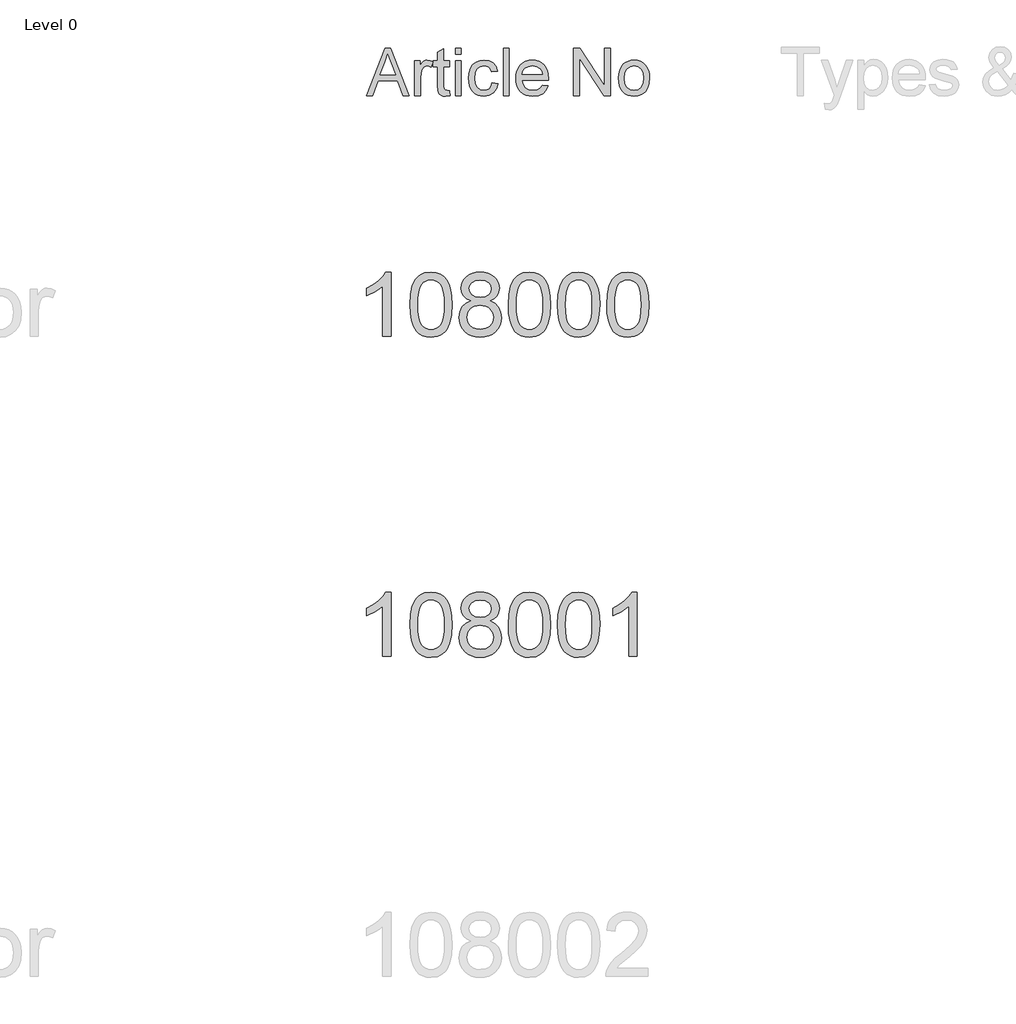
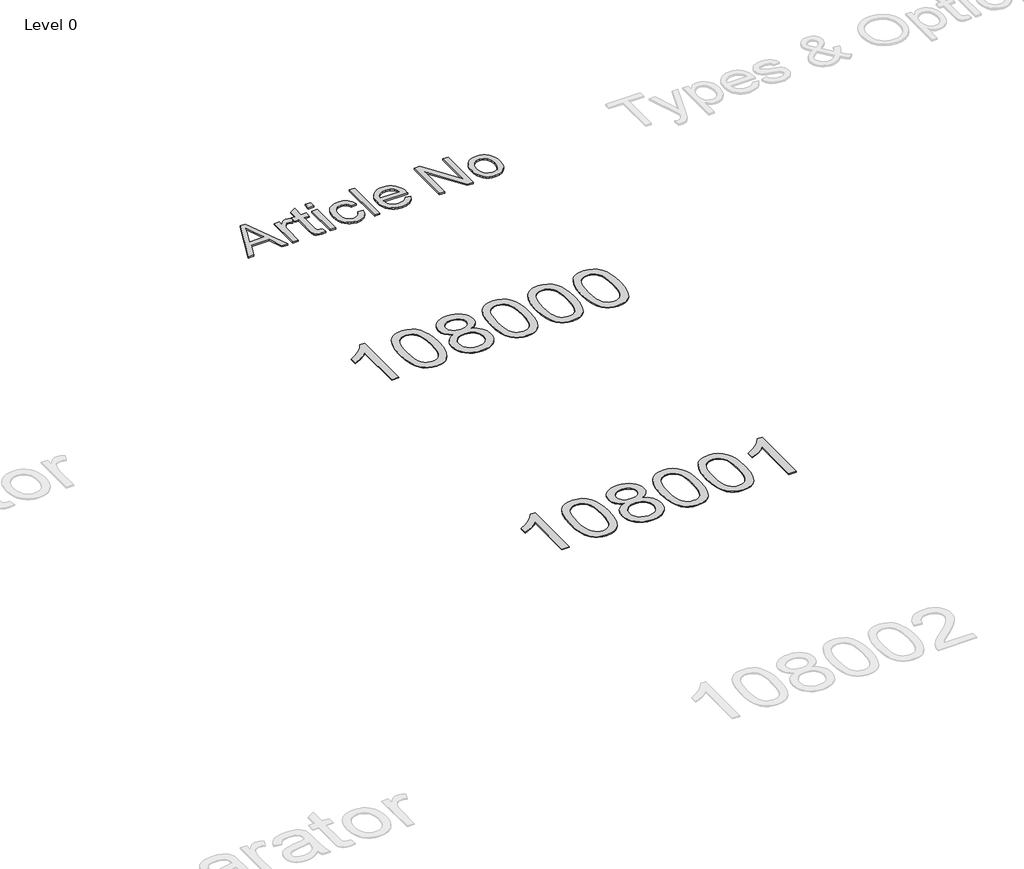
# One storey, part 7 of 15: 3 proxies.
"""IFC4 building model written with IfcOpenShell, lengths in millimetres."""

from ifc_helpers import new_model, si_unit, origin, origin_with_axes, place, context, project, spatial, polyline, outline, extrude, element, save

model = new_model("IFC4")

# Units and contexts
model_context = context("Model", 3, world=origin())
ifc_project = project(units=[si_unit("LENGTHUNIT", "METRE", prefix="MILLI")], contexts=[model_context])

# Site, building, storey
site = spatial("IfcSite", under=ifc_project)
building = spatial("IfcBuilding", under=site)
storey = spatial("IfcBuildingStorey", under=building, Name="Level 0", Elevation=0.0)

# Proxies
placement = place(None, origin())
element("IfcBuildingElementProxy", 1, Name="300mm Arial", ObjectType="300mm Arial", at=placement, inside=storey, context=model_context, shape_type="SweptSolid", body=[
    extrude(outline(polyline([(-3782.2115467, 11653.8274553), (-3664.3028928, 11949.2120707), (-3632.8605852, 11949.2120707), (-3514.9519313, 11653.8274553), (-3553.9663544, 11653.8274553), (-3587.7884698, 11746.1351476), (-3709.4471236, 11746.1351476), (-3743.1971236, 11653.8274553), (-3782.2115467, 11653.8274553)]), holes=[polyline([(-3695.8894313, 11783.0582246), (-3601.2740467, 11783.0582246), (-3627.8846236, 11855.6784169), (-3648.581739, 11912.2889938), (-3666.9711621, 11862.0245707), (-3695.8894313, 11783.0582246)])]), origin_with_axes(), (0.0, 0.0, 1.0), 10.0),
    extrude(outline(polyline([(-3480.1202005, 11653.8274553), (-3480.1202005, 11870.7505323), (-3447.8125082, 11870.7505323), (-3447.8125082, 11838.6591861), (-3435.8774121, 11857.2649553), (-3424.8798159, 11868.2264938), (-3413.8461621, 11873.5810611), (-3401.8028928, 11875.3659169), (-3383.4134698, 11872.5173592), (-3364.7355852, 11863.9716861), (-3377.0673159, 11830.8707246), (-3390.0480852, 11836.5498111), (-3403.0288544, 11838.44284), (-3414.0534938, 11836.6219265), (-3423.9062582, 11831.1591861), (-3431.8659938, 11822.4692823), (-3437.2115467, 11810.9668784), (-3441.7007294, 11790.3418784), (-3443.1971236, 11767.8418784), (-3443.1971236, 11653.8274553), (-3480.1202005, 11653.8274553)])), origin_with_axes(), (0.0, 0.0, 1.0), 10.0),
    extrude(outline(polyline([(-3263.1971236, 11684.6207246), (-3258.581739, 11652.7457246), (-3286.2019313, 11649.2120707), (-3303.9242871, 11650.7445226), (-3317.1394313, 11655.3418784), (-3326.4783736, 11662.427215), (-3332.5721236, 11671.4236092), (-3335.925489, 11686.8743303), (-3337.0432775, 11713.3226476), (-3337.0432775, 11833.8274553), (-3364.7355852, 11833.8274553), (-3364.7355852, 11870.7505323), (-3337.0432775, 11870.7505323), (-3337.0432775, 11923.4668784), (-3300.1202005, 11945.1736092), (-3300.1202005, 11870.7505323), (-3263.1971236, 11870.7505323), (-3263.1971236, 11833.8274553), (-3300.1202005, 11833.8274553), (-3300.1202005, 11714.4043784), (-3298.1730852, 11695.3659169), (-3291.862989, 11688.6231284), (-3279.2788544, 11686.1351476), (-3263.1971236, 11684.6207246)])), origin_with_axes(), (0.0, 0.0, 1.0), 10.0),
    extrude(outline(polyline([(-3226.2740467, 11912.2889938), (-3226.2740467, 11949.2120707), (-3189.3509698, 11949.2120707), (-3189.3509698, 11912.2889938), (-3226.2740467, 11912.2889938)])), origin_with_axes(), (0.0, 0.0, 1.0), 10.0),
    extrude(outline(polyline([(-3226.2740467, 11653.8274553), (-3226.2740467, 11870.7505323), (-3189.3509698, 11870.7505323), (-3189.3509698, 11653.8274553), (-3226.2740467, 11653.8274553)])), origin_with_axes(), (0.0, 0.0, 1.0), 10.0),
    extrude(outline(polyline([(-2995.5048159, 11732.2889938), (-2958.581739, 11727.6736092), (-2968.8762102, 11694.8340659), (-2988.2211621, 11670.0173592), (-3014.7956813, 11654.4133928), (-3046.7788544, 11649.2120707), (-3067.4872378, 11651.0262234), (-3086.0546957, 11656.4686813), (-3102.4812282, 11665.5394445), (-3116.7668352, 11678.238513), (-3128.3300864, 11694.3270046), (-3136.5895515, 11713.5660371), (-3141.5452306, 11735.9556104), (-3143.1971236, 11761.4957246), (-3140.3756092, 11794.3532967), (-3131.9110659, 11822.8298592), (-3117.6682775, 11845.8256525), (-3097.5120275, 11862.2409169), (-3073.3984457, 11872.0846669), (-3047.2836621, 11875.3659169), (-3016.0847438, 11870.8587053), (-2991.1418352, 11857.3370707), (-2973.2482053, 11835.5221669), (-2963.1971236, 11806.1351476), (-3000.1202005, 11801.519763), (-3006.8179169, 11817.6285371), (-3017.2476044, 11829.176013), (-3030.83234, 11836.1261332), (-3046.9952005, 11838.44284), (-3070.8563784, 11833.8815419), (-3089.7956813, 11820.1976476), (-3102.1544553, 11796.6519746), (-3106.2740467, 11762.50534), (-3102.2445996, 11727.8989698), (-3090.1562582, 11704.2721669), (-3071.5595034, 11690.6694025), (-3048.0048159, 11686.1351476), (-3028.8852246, 11688.9656765), (-3013.2091428, 11697.457263), (-3001.8058977, 11711.8262534), (-2995.5048159, 11732.2889938)])), origin_with_axes(), (0.0, 0.0, 1.0), 10.0),
    extrude(outline(polyline([(-2926.2740467, 11653.8274553), (-2926.2740467, 11949.2120707), (-2889.3509698, 11949.2120707), (-2889.3509698, 11653.8274553), (-2926.2740467, 11653.8274553)])), origin_with_axes(), (0.0, 0.0, 1.0), 10.0),
    extrude(outline(polyline([(-2682.0913544, 11718.44284), (-2645.8894313, 11713.8274553), (-2658.9333015, 11686.5498111), (-2679.7476044, 11666.1591861), (-2707.86359, 11653.4488496), (-2742.8125082, 11649.2120707), (-2765.7226645, 11651.039745), (-2786.1358255, 11656.5227678), (-2804.0519914, 11665.6611392), (-2819.4711621, 11678.4548592), (-2831.870501, 11694.547858), (-2840.7271717, 11713.5840659), (-2846.0411741, 11735.563483), (-2847.8125082, 11760.4861092), (-2846.0231453, 11786.2538375), (-2840.6550563, 11808.9656765), (-2831.7082414, 11828.621626), (-2819.1827005, 11845.2216861), (-2803.8040948, 11858.4097871), (-2786.2980852, 11867.8298592), (-2766.6646717, 11873.4819025), (-2744.9038544, 11875.3659169), (-2723.8439085, 11873.4864097), (-2704.7986861, 11867.847888), (-2687.7681873, 11858.450352), (-2672.7524121, 11845.2938015), (-2660.4950503, 11828.7297991), (-2651.7397919, 11809.1099073), (-2646.4866368, 11786.434126), (-2644.7355852, 11760.7024553), (-2644.9519313, 11750.7505323), (-2810.8894313, 11750.7505323), (-2804.4982053, 11723.1123111), (-2789.6514505, 11702.7938015), (-2768.2241669, 11690.2998111), (-2742.0913544, 11686.1351476), (-2722.4399121, 11688.0642342), (-2705.8894313, 11693.8514938), (-2692.4399121, 11703.8575034), (-2682.0913544, 11718.44284)]), holes=[polyline([(-2810.8894313, 11787.6736092), (-2681.6586621, 11787.6736092), (-2686.6526525, 11807.1808207), (-2696.4423159, 11821.1351476), (-2717.9687582, 11834.1159169), (-2745.0480852, 11838.44284), (-2769.9369073, 11834.9903159), (-2790.5168352, 11824.6327438), (-2804.8227246, 11808.4879121), (-2810.8894313, 11787.6736092)])]), origin_with_axes(), (0.0, 0.0, 1.0), 10.0),
    extrude(outline(polyline([(-2487.8125082, 11653.8274553), (-2487.8125082, 11949.2120707), (-2448.2932775, 11949.2120707), (-2293.9663544, 11715.1976476), (-2293.9663544, 11949.2120707), (-2257.0432775, 11949.2120707), (-2257.0432775, 11653.8274553), (-2296.5625082, 11653.8274553), (-2450.8894313, 11887.9139938), (-2450.8894313, 11653.8274553), (-2487.8125082, 11653.8274553)])), origin_with_axes(), (0.0, 0.0, 1.0), 10.0),
    extrude(outline(polyline([(-2206.2740467, 11762.2889938), (-2204.277352, 11790.3824433), (-2198.2872678, 11814.5906765), (-2188.3037943, 11834.9136933), (-2174.3269313, 11851.3514938), (-2160.2554169, 11861.8578039), (-2144.7235659, 11869.3623111), (-2127.7313784, 11873.8650154), (-2109.2788544, 11875.3659169), (-2088.9085118, 11873.5382426), (-2070.4897919, 11868.0552198), (-2054.0226945, 11858.9168484), (-2039.5072198, 11846.1231284), (-2027.6600142, 11830.1067522), (-2019.1977246, 11811.3004121), (-2014.1203508, 11789.704108), (-2012.4278928, 11765.31784), (-2015.4206813, 11728.0161573), (-2024.3990467, 11699.6207246), (-2039.1015707, 11678.3557005), (-2059.2668352, 11662.4452438), (-2083.2181573, 11652.520364), (-2109.2788544, 11649.2120707), (-2129.9466729, 11651.0329842), (-2148.5366669, 11656.4957246), (-2165.0488364, 11665.6002919), (-2179.4831813, 11678.3466861), (-2191.2041849, 11694.5185611), (-2199.5763303, 11713.8995707), (-2204.5996176, 11736.489715), (-2206.2740467, 11762.2889938)]), holes=[polyline([(-2169.3509698, 11762.3611092), (-2165.0781332, 11728.9446428), (-2152.2596236, 11705.1375515), (-2132.9687582, 11690.8857486), (-2109.2788544, 11686.1351476), (-2085.6971236, 11690.9127919), (-2066.4423159, 11705.2457246), (-2053.6238063, 11729.3683207), (-2049.3509698, 11763.5149553), (-2053.6508496, 11795.957864), (-2066.550489, 11819.4404361), (-2085.83234, 11833.692239), (-2109.2788544, 11838.44284), (-2132.9687582, 11833.7102678), (-2152.2596236, 11819.5125515), (-2165.0781332, 11795.7595467), (-2169.3509698, 11762.3611092)])]), origin_with_axes(), (0.0, 0.0, 1.0), 10.0),
])
element("IfcBuildingElementProxy", 2, Name="400mm Arial", ObjectType="400mm Arial", at=placement, inside=storey, context=model_context, shape_type="SweptSolid", body=[
    extrude(outline(polyline([(-3629.592891, 10149.0232018), (-3679.821046, 10149.0232018), (-3679.821046, 10462.1643561), (-3700.7903198, 10445.2049961), (-3727.4004508, 10428.2701616), (-3780.2773562, 10402.9108294), (-3780.2773562, 10450.3921323), (-3740.8281436, 10471.8519153), (-3706.6519062, 10497.3829258), (-3679.7106814, 10524.532617), (-3661.9665065, 10550.8484424), (-3629.592891, 10550.8484424), (-3629.592891, 10149.0232018)])), origin_with_axes(), (0.0, 0.0, 1.0), 5.0),
    extrude(outline(polyline([(-3510.3010227, 10346.6984606), (-3506.60994, 10411.0164961), (-3495.5366919, 10462.3115089), (-3477.1916431, 10501.3683141), (-3465.3335801, 10516.6016944), (-3451.6851581, 10528.9717264), (-3436.2003918, 10538.5427897), (-3418.8332959, 10545.3792634), (-3378.4521156, 10550.8484424), (-3347.5009771, 10547.6110809), (-3319.7872001, 10537.8989962), (-3296.6106344, 10522.0923331), (-3279.2711297, 10500.5712364), (-3266.1745307, 10473.519647), (-3255.726682, 10441.121506), (-3248.8840769, 10399.9800362), (-3246.6032085, 10346.6984606), (-3250.257503, 10282.7483071), (-3261.2203865, 10231.5759215), (-3279.4550707, 10192.4823282), (-3291.2855425, 10177.2029627), (-3304.9247675, 10164.7685512), (-3320.4279279, 10155.1331086), (-3337.8502061, 10148.2506496), (-3378.4521156, 10142.7446824), (-3406.1168416, 10145.1359154), (-3430.642308, 10152.3096143), (-3452.0285146, 10164.2657792), (-3470.2754616, 10181.0044099), (-3487.7866446, 10211.262704), (-3500.2946324, 10248.9644772), (-3507.7994251, 10294.1097294), (-3510.3010227, 10346.6984606)]), holes=[polyline([(-3460.0728676, 10346.7965624), (-3458.6013396, 10303.1320353), (-3454.1867557, 10267.7877726), (-3446.8291158, 10240.7637744), (-3436.5284199, 10222.0600406), (-3424.069483, 10209.3343892), (-3410.23712, 10200.2446383), (-3395.0313308, 10194.7907877), (-3378.4521156, 10192.9728375), (-3361.8729003, 10194.7969191), (-3346.6671112, 10200.2691637), (-3332.8347482, 10209.3895715), (-3320.3758113, 10222.1581425), (-3310.0751154, 10240.8925331), (-3302.7174755, 10267.9103999), (-3298.3028916, 10303.2117431), (-3296.8313636, 10346.7965624), (-3298.2538406, 10389.305327), (-3302.5212718, 10424.0272559), (-3309.633657, 10450.9623494), (-3319.5909964, 10470.1106072), (-3331.8414668, 10483.4585923), (-3345.8332454, 10492.9928673), (-3361.566332, 10498.7134323), (-3379.0407268, 10500.6202873), (-3395.5341029, 10498.9402929), (-3410.4823746, 10493.9003096), (-3423.885542, 10485.5003373), (-3435.743605, 10473.7403762), (-3446.3876574, 10452.8937298), (-3453.9905519, 10424.7875454), (-3458.5522887, 10389.4218229), (-3460.0728676, 10346.7965624)])]), origin_with_axes(), (0.0, 0.0, 1.0), 5.0),
    extrude(outline(polyline([(-3129.4695813, 10370.3410101), (-3156.3617551, 10383.5847619), (-3175.2341015, 10401.5374033), (-3186.3809259, 10423.8310522), (-3190.0965341, 10450.0978267), (-3188.0731831, 10470.5827224), (-3182.0031302, 10489.3630983), (-3171.8863753, 10506.4389542), (-3157.7229185, 10521.8102903), (-3140.1933414, 10534.5144818), (-3119.9782258, 10543.5889044), (-3097.0775716, 10549.0335579), (-3071.4913788, 10550.8484424), (-3045.7825587, 10548.9906383), (-3022.7102263, 10543.4172261), (-3002.2743814, 10534.1282057), (-2984.4750242, 10521.1235772), (-2970.05405, 10505.4518042), (-2959.7533542, 10488.1613504), (-2953.5729366, 10469.2522159), (-2951.5127975, 10448.7244006), (-2955.1793547, 10423.3037547), (-2966.1790263, 10401.3902505), (-2984.6344398, 10383.5479737), (-3010.6682223, 10370.3410101), (-2979.753872, 10354.4117197), (-2957.2517566, 10330.9531112), (-2943.5297582, 10301.0933559), (-2938.9557587, 10265.9606254), (-2941.2243643, 10240.9078615), (-2948.0301812, 10217.9397623), (-2959.3732094, 10197.0563277), (-2975.2534489, 10178.2575577), (-2994.8370338, 10162.7206748), (-3017.2900982, 10151.6229013), (-3042.6126422, 10144.9642371), (-3070.8046658, 10142.7446824), (-3098.9966893, 10144.9734342), (-3124.3192333, 10151.6596895), (-3146.7722978, 10162.8034482), (-3166.3558826, 10178.4047105), (-3182.2361221, 10197.3353048), (-3193.5791503, 10218.4670598), (-3200.3849672, 10241.7999753), (-3202.6535728, 10267.3340515), (-3197.8956324, 10303.8279454), (-3183.621811, 10333.8471162), (-3160.5678726, 10356.3614943), (-3129.4695813, 10370.3410101)]), holes=[polyline([(-3139.868379, 10448.6262987), (-3135.4170068, 10426.7005318), (-3122.0628904, 10409.1893488), (-3100.1984372, 10397.7114306), (-3070.2160546, 10393.8854578), (-3040.9326478, 10397.6869051), (-3019.3992883, 10409.0912469), (-3006.1555365, 10426.0138187), (-3001.7409525, 10446.3699558), (-3006.3026893, 10467.498645), (-3019.9878995, 10484.9730398), (-3041.8155645, 10496.7084755), (-3070.8046658, 10500.6202873), (-3099.977708, 10496.7943146), (-3121.7685848, 10485.3163963), (-3135.3434305, 10468.4919264), (-3139.868379, 10448.6262987)]), polyline([(-3152.4254178, 10269.099885), (-3150.3284904, 10249.8841822), (-3144.0377083, 10231.2816159), (-3132.4249, 10215.05802), (-3114.361894, 10202.9792278), (-3092.7304327, 10195.4744351), (-3070.4122583, 10192.9728375), (-3036.2237582, 10198.23355), (-3022.3300815, 10204.8094407), (-3010.5701204, 10214.0156876), (-2994.5304654, 10237.9157546), (-2989.1839138, 10267.5302552), (-2994.7021437, 10297.6475279), (-3011.2568335, 10322.0748924), (-3023.3356257, 10331.5171969), (-3037.4990825, 10338.2617001), (-3072.07999, 10343.6573027), (-3105.7902435, 10338.3352765), (-3119.5275703, 10331.6827438), (-3131.1863639, 10322.3691979), (-3147.1156543, 10298.4078173), (-3152.4254178, 10269.099885)])]), origin_with_axes(), (0.0, 0.0, 1.0), 5.0),
    extrude(outline(polyline([(-2895.006123, 10346.6984606), (-2891.3150403, 10411.0164961), (-2880.2417923, 10462.3115089), (-2861.8967434, 10501.3683141), (-2850.0386805, 10516.6016944), (-2836.3902584, 10528.9717264), (-2820.9054921, 10538.5427897), (-2803.5383963, 10545.3792634), (-2763.1572159, 10550.8484424), (-2732.2060774, 10547.6110809), (-2704.4923004, 10537.8989962), (-2681.3157347, 10522.0923331), (-2663.97623, 10500.5712364), (-2650.879631, 10473.519647), (-2640.4317823, 10441.121506), (-2633.5891772, 10399.9800362), (-2631.3083089, 10346.6984606), (-2634.9626033, 10282.7483071), (-2645.9254868, 10231.5759215), (-2664.160171, 10192.4823282), (-2675.9906429, 10177.2029627), (-2689.6298678, 10164.7685512), (-2705.1330282, 10155.1331086), (-2722.5553064, 10148.2506496), (-2763.1572159, 10142.7446824), (-2790.821942, 10145.1359154), (-2815.3474083, 10152.3096143), (-2836.733615, 10164.2657792), (-2854.9805619, 10181.0044099), (-2872.4917449, 10211.262704), (-2884.9997327, 10248.9644772), (-2892.5045254, 10294.1097294), (-2895.006123, 10346.6984606)]), holes=[polyline([(-2844.7779679, 10346.7965624), (-2843.3064399, 10303.1320353), (-2838.891856, 10267.7877726), (-2831.5342161, 10240.7637744), (-2821.2335202, 10222.0600406), (-2808.7745833, 10209.3343892), (-2794.9422203, 10200.2446383), (-2779.7364312, 10194.7907877), (-2763.1572159, 10192.9728375), (-2746.5780007, 10194.7969191), (-2731.3722115, 10200.2691637), (-2717.5398485, 10209.3895715), (-2705.0809116, 10222.1581425), (-2694.7802158, 10240.8925331), (-2687.4225759, 10267.9103999), (-2683.0079919, 10303.2117431), (-2681.5364639, 10346.7965624), (-2682.958941, 10389.305327), (-2687.2263721, 10424.0272559), (-2694.3387574, 10450.9623494), (-2704.2960967, 10470.1106072), (-2716.5465671, 10483.4585923), (-2730.5383457, 10492.9928673), (-2746.2714324, 10498.7134323), (-2763.7458271, 10500.6202873), (-2780.2392032, 10498.9402929), (-2795.187475, 10493.9003096), (-2808.5906423, 10485.5003373), (-2820.4487053, 10473.7403762), (-2831.0927577, 10452.8937298), (-2838.6956523, 10424.7875454), (-2843.257389, 10389.4218229), (-2844.7779679, 10346.7965624)])]), origin_with_axes(), (0.0, 0.0, 1.0), 5.0),
    extrude(outline(polyline([(-2587.3586732, 10346.6984606), (-2583.6675905, 10411.0164961), (-2572.5943424, 10462.3115089), (-2554.2492936, 10501.3683141), (-2542.3912306, 10516.6016944), (-2528.7428086, 10528.9717264), (-2513.2580423, 10538.5427897), (-2495.8909464, 10545.3792634), (-2455.5097661, 10550.8484424), (-2424.5586276, 10547.6110809), (-2396.8448506, 10537.8989962), (-2373.6682849, 10522.0923331), (-2356.3287802, 10500.5712364), (-2343.2321812, 10473.519647), (-2332.7843325, 10441.121506), (-2325.9417274, 10399.9800362), (-2323.660859, 10346.6984606), (-2327.3151535, 10282.7483071), (-2338.278037, 10231.5759215), (-2356.5127212, 10192.4823282), (-2368.343193, 10177.2029627), (-2381.982418, 10164.7685512), (-2397.4855784, 10155.1331086), (-2414.9078566, 10148.2506496), (-2455.5097661, 10142.7446824), (-2483.1744921, 10145.1359154), (-2507.6999585, 10152.3096143), (-2529.0861651, 10164.2657792), (-2547.3331121, 10181.0044099), (-2564.8442951, 10211.262704), (-2577.3522829, 10248.9644772), (-2584.8570756, 10294.1097294), (-2587.3586732, 10346.6984606)]), holes=[polyline([(-2537.1305181, 10346.7965624), (-2535.6589901, 10303.1320353), (-2531.2444062, 10267.7877726), (-2523.8867663, 10240.7637744), (-2513.5860704, 10222.0600406), (-2501.1271335, 10209.3343892), (-2487.2947705, 10200.2446383), (-2472.0889813, 10194.7907877), (-2455.5097661, 10192.9728375), (-2438.9305508, 10194.7969191), (-2423.7247617, 10200.2691637), (-2409.8923987, 10209.3895715), (-2397.4334618, 10222.1581425), (-2387.1327659, 10240.8925331), (-2379.775126, 10267.9103999), (-2375.3605421, 10303.2117431), (-2373.8890141, 10346.7965624), (-2375.3114911, 10389.305327), (-2379.5789223, 10424.0272559), (-2386.6913075, 10450.9623494), (-2396.6486469, 10470.1106072), (-2408.8991173, 10483.4585923), (-2422.8908959, 10492.9928673), (-2438.6239825, 10498.7134323), (-2456.0983773, 10500.6202873), (-2472.5917534, 10498.9402929), (-2487.5400251, 10493.9003096), (-2500.9431925, 10485.5003373), (-2512.8012555, 10473.7403762), (-2523.4453079, 10452.8937298), (-2531.0482024, 10424.7875454), (-2535.6099392, 10389.4218229), (-2537.1305181, 10346.7965624)])]), origin_with_axes(), (0.0, 0.0, 1.0), 5.0),
    extrude(outline(polyline([(-2279.7112233, 10346.6984606), (-2276.0201407, 10411.0164961), (-2264.9468926, 10462.3115089), (-2246.6018438, 10501.3683141), (-2234.7437808, 10516.6016944), (-2221.0953588, 10528.9717264), (-2205.6105925, 10538.5427897), (-2188.2434966, 10545.3792634), (-2147.8623163, 10550.8484424), (-2116.9111777, 10547.6110809), (-2089.1974008, 10537.8989962), (-2066.0208351, 10522.0923331), (-2048.6813304, 10500.5712364), (-2035.5847313, 10473.519647), (-2025.1368827, 10441.121506), (-2018.2942776, 10399.9800362), (-2016.0134092, 10346.6984606), (-2019.6677037, 10282.7483071), (-2030.6305871, 10231.5759215), (-2048.8652714, 10192.4823282), (-2060.6957432, 10177.2029627), (-2074.3349682, 10164.7685512), (-2089.8381286, 10155.1331086), (-2107.2604067, 10148.2506496), (-2147.8623163, 10142.7446824), (-2175.5270423, 10145.1359154), (-2200.0525086, 10152.3096143), (-2221.4387153, 10164.2657792), (-2239.6856623, 10181.0044099), (-2257.1968452, 10211.262704), (-2269.7048331, 10248.9644772), (-2277.2096258, 10294.1097294), (-2279.7112233, 10346.6984606)]), holes=[polyline([(-2229.4830683, 10346.7965624), (-2228.0115403, 10303.1320353), (-2223.5969563, 10267.7877726), (-2216.2393164, 10240.7637744), (-2205.9386206, 10222.0600406), (-2193.4796837, 10209.3343892), (-2179.6473206, 10200.2446383), (-2164.4415315, 10194.7907877), (-2147.8623163, 10192.9728375), (-2131.283101, 10194.7969191), (-2116.0773119, 10200.2691637), (-2102.2449489, 10209.3895715), (-2089.786012, 10222.1581425), (-2079.4853161, 10240.8925331), (-2072.1276762, 10267.9103999), (-2067.7130922, 10303.2117431), (-2066.2415643, 10346.7965624), (-2067.6640413, 10389.305327), (-2071.9314725, 10424.0272559), (-2079.0438577, 10450.9623494), (-2089.001197, 10470.1106072), (-2101.2516675, 10483.4585923), (-2115.243446, 10492.9928673), (-2130.9765327, 10498.7134323), (-2148.4509275, 10500.6202873), (-2164.9443036, 10498.9402929), (-2179.8925753, 10493.9003096), (-2193.2957427, 10485.5003373), (-2205.1538056, 10473.7403762), (-2215.797858, 10452.8937298), (-2223.4007526, 10424.7875454), (-2227.9624893, 10389.4218229), (-2229.4830683, 10346.7965624)])]), origin_with_axes(), (0.0, 0.0, 1.0), 5.0),
])
element("IfcBuildingElementProxy", 3, Name="400mm Arial", ObjectType="400mm Arial", at=placement, inside=storey, context=model_context, shape_type="SweptSolid", body=[
    extrude(outline(polyline([(-3629.592891, 8149.0232018), (-3679.821046, 8149.0232018), (-3679.821046, 8462.1643561), (-3700.7903198, 8445.2049961), (-3727.4004508, 8428.2701616), (-3780.2773562, 8402.9108294), (-3780.2773562, 8450.3921323), (-3740.8281436, 8471.8519153), (-3706.6519062, 8497.3829258), (-3679.7106814, 8524.532617), (-3661.9665065, 8550.8484424), (-3629.592891, 8550.8484424), (-3629.592891, 8149.0232018)])), origin_with_axes(), (0.0, 0.0, 1.0), 5.0),
    extrude(outline(polyline([(-3510.3010227, 8346.6984606), (-3506.60994, 8411.0164961), (-3495.5366919, 8462.3115089), (-3477.1916431, 8501.3683141), (-3465.3335801, 8516.6016944), (-3451.6851581, 8528.9717264), (-3436.2003918, 8538.5427897), (-3418.8332959, 8545.3792634), (-3378.4521156, 8550.8484424), (-3347.5009771, 8547.6110809), (-3319.7872001, 8537.8989962), (-3296.6106344, 8522.0923331), (-3279.2711297, 8500.5712364), (-3266.1745307, 8473.519647), (-3255.726682, 8441.121506), (-3248.8840769, 8399.9800362), (-3246.6032085, 8346.6984606), (-3250.257503, 8282.7483071), (-3261.2203865, 8231.5759215), (-3279.4550707, 8192.4823282), (-3291.2855425, 8177.2029627), (-3304.9247675, 8164.7685512), (-3320.4279279, 8155.1331086), (-3337.8502061, 8148.2506496), (-3378.4521156, 8142.7446824), (-3406.1168416, 8145.1359154), (-3430.642308, 8152.3096143), (-3452.0285146, 8164.2657792), (-3470.2754616, 8181.0044099), (-3487.7866446, 8211.262704), (-3500.2946324, 8248.9644772), (-3507.7994251, 8294.1097294), (-3510.3010227, 8346.6984606)]), holes=[polyline([(-3460.0728676, 8346.7965624), (-3458.6013396, 8303.1320353), (-3454.1867557, 8267.7877726), (-3446.8291158, 8240.7637744), (-3436.5284199, 8222.0600406), (-3424.069483, 8209.3343892), (-3410.23712, 8200.2446383), (-3395.0313308, 8194.7907877), (-3378.4521156, 8192.9728375), (-3361.8729003, 8194.7969191), (-3346.6671112, 8200.2691637), (-3332.8347482, 8209.3895715), (-3320.3758113, 8222.1581425), (-3310.0751154, 8240.8925331), (-3302.7174755, 8267.9103999), (-3298.3028916, 8303.2117431), (-3296.8313636, 8346.7965624), (-3298.2538406, 8389.305327), (-3302.5212718, 8424.0272559), (-3309.633657, 8450.9623494), (-3319.5909964, 8470.1106072), (-3331.8414668, 8483.4585923), (-3345.8332454, 8492.9928673), (-3361.566332, 8498.7134323), (-3379.0407268, 8500.6202873), (-3395.5341029, 8498.9402929), (-3410.4823746, 8493.9003096), (-3423.885542, 8485.5003373), (-3435.743605, 8473.7403762), (-3446.3876574, 8452.8937298), (-3453.9905519, 8424.7875454), (-3458.5522887, 8389.4218229), (-3460.0728676, 8346.7965624)])]), origin_with_axes(), (0.0, 0.0, 1.0), 5.0),
    extrude(outline(polyline([(-3129.4695813, 8370.3410101), (-3156.3617551, 8383.5847619), (-3175.2341015, 8401.5374033), (-3186.3809259, 8423.8310522), (-3190.0965341, 8450.0978267), (-3188.0731831, 8470.5827224), (-3182.0031302, 8489.3630983), (-3171.8863753, 8506.4389542), (-3157.7229185, 8521.8102903), (-3140.1933414, 8534.5144818), (-3119.9782258, 8543.5889044), (-3097.0775716, 8549.0335579), (-3071.4913788, 8550.8484424), (-3045.7825587, 8548.9906383), (-3022.7102263, 8543.4172261), (-3002.2743814, 8534.1282057), (-2984.4750242, 8521.1235772), (-2970.05405, 8505.4518042), (-2959.7533542, 8488.1613504), (-2953.5729366, 8469.2522159), (-2951.5127975, 8448.7244006), (-2955.1793547, 8423.3037547), (-2966.1790263, 8401.3902505), (-2984.6344398, 8383.5479737), (-3010.6682223, 8370.3410101), (-2979.753872, 8354.4117197), (-2957.2517566, 8330.9531112), (-2943.5297582, 8301.0933559), (-2938.9557587, 8265.9606254), (-2941.2243643, 8240.9078615), (-2948.0301812, 8217.9397623), (-2959.3732094, 8197.0563277), (-2975.2534489, 8178.2575577), (-2994.8370338, 8162.7206748), (-3017.2900982, 8151.6229013), (-3042.6126422, 8144.9642371), (-3070.8046658, 8142.7446824), (-3098.9966893, 8144.9734342), (-3124.3192333, 8151.6596895), (-3146.7722978, 8162.8034482), (-3166.3558826, 8178.4047105), (-3182.2361221, 8197.3353048), (-3193.5791503, 8218.4670598), (-3200.3849672, 8241.7999753), (-3202.6535728, 8267.3340515), (-3197.8956324, 8303.8279454), (-3183.621811, 8333.8471162), (-3160.5678726, 8356.3614943), (-3129.4695813, 8370.3410101)]), holes=[polyline([(-3139.868379, 8448.6262987), (-3135.4170068, 8426.7005318), (-3122.0628904, 8409.1893488), (-3100.1984372, 8397.7114306), (-3070.2160546, 8393.8854578), (-3040.9326478, 8397.6869051), (-3019.3992883, 8409.0912469), (-3006.1555365, 8426.0138187), (-3001.7409525, 8446.3699558), (-3006.3026893, 8467.498645), (-3019.9878995, 8484.9730398), (-3041.8155645, 8496.7084755), (-3070.8046658, 8500.6202873), (-3099.977708, 8496.7943146), (-3121.7685848, 8485.3163963), (-3135.3434305, 8468.4919264), (-3139.868379, 8448.6262987)]), polyline([(-3152.4254178, 8269.099885), (-3150.3284904, 8249.8841822), (-3144.0377083, 8231.2816159), (-3132.4249, 8215.05802), (-3114.361894, 8202.9792278), (-3092.7304327, 8195.4744351), (-3070.4122583, 8192.9728375), (-3036.2237582, 8198.23355), (-3022.3300815, 8204.8094407), (-3010.5701204, 8214.0156876), (-2994.5304654, 8237.9157546), (-2989.1839138, 8267.5302552), (-2994.7021437, 8297.6475279), (-3011.2568335, 8322.0748924), (-3023.3356257, 8331.5171969), (-3037.4990825, 8338.2617001), (-3072.07999, 8343.6573027), (-3105.7902435, 8338.3352765), (-3119.5275703, 8331.6827438), (-3131.1863639, 8322.3691979), (-3147.1156543, 8298.4078173), (-3152.4254178, 8269.099885)])]), origin_with_axes(), (0.0, 0.0, 1.0), 5.0),
    extrude(outline(polyline([(-2895.006123, 8346.6984606), (-2891.3150403, 8411.0164961), (-2880.2417923, 8462.3115089), (-2861.8967434, 8501.3683141), (-2850.0386805, 8516.6016944), (-2836.3902584, 8528.9717264), (-2820.9054921, 8538.5427897), (-2803.5383963, 8545.3792634), (-2763.1572159, 8550.8484424), (-2732.2060774, 8547.6110809), (-2704.4923004, 8537.8989962), (-2681.3157347, 8522.0923331), (-2663.97623, 8500.5712364), (-2650.879631, 8473.519647), (-2640.4317823, 8441.121506), (-2633.5891772, 8399.9800362), (-2631.3083089, 8346.6984606), (-2634.9626033, 8282.7483071), (-2645.9254868, 8231.5759215), (-2664.160171, 8192.4823282), (-2675.9906429, 8177.2029627), (-2689.6298678, 8164.7685512), (-2705.1330282, 8155.1331086), (-2722.5553064, 8148.2506496), (-2763.1572159, 8142.7446824), (-2790.821942, 8145.1359154), (-2815.3474083, 8152.3096143), (-2836.733615, 8164.2657792), (-2854.9805619, 8181.0044099), (-2872.4917449, 8211.262704), (-2884.9997327, 8248.9644772), (-2892.5045254, 8294.1097294), (-2895.006123, 8346.6984606)]), holes=[polyline([(-2844.7779679, 8346.7965624), (-2843.3064399, 8303.1320353), (-2838.891856, 8267.7877726), (-2831.5342161, 8240.7637744), (-2821.2335202, 8222.0600406), (-2808.7745833, 8209.3343892), (-2794.9422203, 8200.2446383), (-2779.7364312, 8194.7907877), (-2763.1572159, 8192.9728375), (-2746.5780007, 8194.7969191), (-2731.3722115, 8200.2691637), (-2717.5398485, 8209.3895715), (-2705.0809116, 8222.1581425), (-2694.7802158, 8240.8925331), (-2687.4225759, 8267.9103999), (-2683.0079919, 8303.2117431), (-2681.5364639, 8346.7965624), (-2682.958941, 8389.305327), (-2687.2263721, 8424.0272559), (-2694.3387574, 8450.9623494), (-2704.2960967, 8470.1106072), (-2716.5465671, 8483.4585923), (-2730.5383457, 8492.9928673), (-2746.2714324, 8498.7134323), (-2763.7458271, 8500.6202873), (-2780.2392032, 8498.9402929), (-2795.187475, 8493.9003096), (-2808.5906423, 8485.5003373), (-2820.4487053, 8473.7403762), (-2831.0927577, 8452.8937298), (-2838.6956523, 8424.7875454), (-2843.257389, 8389.4218229), (-2844.7779679, 8346.7965624)])]), origin_with_axes(), (0.0, 0.0, 1.0), 5.0),
    extrude(outline(polyline([(-2587.3586732, 8346.6984606), (-2583.6675905, 8411.0164961), (-2572.5943424, 8462.3115089), (-2554.2492936, 8501.3683141), (-2542.3912306, 8516.6016944), (-2528.7428086, 8528.9717264), (-2513.2580423, 8538.5427897), (-2495.8909464, 8545.3792634), (-2455.5097661, 8550.8484424), (-2424.5586276, 8547.6110809), (-2396.8448506, 8537.8989962), (-2373.6682849, 8522.0923331), (-2356.3287802, 8500.5712364), (-2343.2321812, 8473.519647), (-2332.7843325, 8441.121506), (-2325.9417274, 8399.9800362), (-2323.660859, 8346.6984606), (-2327.3151535, 8282.7483071), (-2338.278037, 8231.5759215), (-2356.5127212, 8192.4823282), (-2368.343193, 8177.2029627), (-2381.982418, 8164.7685512), (-2397.4855784, 8155.1331086), (-2414.9078566, 8148.2506496), (-2455.5097661, 8142.7446824), (-2483.1744921, 8145.1359154), (-2507.6999585, 8152.3096143), (-2529.0861651, 8164.2657792), (-2547.3331121, 8181.0044099), (-2564.8442951, 8211.262704), (-2577.3522829, 8248.9644772), (-2584.8570756, 8294.1097294), (-2587.3586732, 8346.6984606)]), holes=[polyline([(-2537.1305181, 8346.7965624), (-2535.6589901, 8303.1320353), (-2531.2444062, 8267.7877726), (-2523.8867663, 8240.7637744), (-2513.5860704, 8222.0600406), (-2501.1271335, 8209.3343892), (-2487.2947705, 8200.2446383), (-2472.0889813, 8194.7907877), (-2455.5097661, 8192.9728375), (-2438.9305508, 8194.7969191), (-2423.7247617, 8200.2691637), (-2409.8923987, 8209.3895715), (-2397.4334618, 8222.1581425), (-2387.1327659, 8240.8925331), (-2379.775126, 8267.9103999), (-2375.3605421, 8303.2117431), (-2373.8890141, 8346.7965624), (-2375.3114911, 8389.305327), (-2379.5789223, 8424.0272559), (-2386.6913075, 8450.9623494), (-2396.6486469, 8470.1106072), (-2408.8991173, 8483.4585923), (-2422.8908959, 8492.9928673), (-2438.6239825, 8498.7134323), (-2456.0983773, 8500.6202873), (-2472.5917534, 8498.9402929), (-2487.5400251, 8493.9003096), (-2500.9431925, 8485.5003373), (-2512.8012555, 8473.7403762), (-2523.4453079, 8452.8937298), (-2531.0482024, 8424.7875454), (-2535.6099392, 8389.4218229), (-2537.1305181, 8346.7965624)])]), origin_with_axes(), (0.0, 0.0, 1.0), 5.0),
    extrude(outline(polyline([(-2091.3556418, 8149.0232018), (-2141.5837969, 8149.0232018), (-2141.5837969, 8462.1643561), (-2162.5530706, 8445.2049961), (-2189.1632016, 8428.2701616), (-2242.040107, 8402.9108294), (-2242.040107, 8450.3921323), (-2202.5908944, 8471.8519153), (-2168.4146571, 8497.3829258), (-2141.4734323, 8524.532617), (-2123.7292574, 8550.8484424), (-2091.3556418, 8550.8484424), (-2091.3556418, 8149.0232018)])), origin_with_axes(), (0.0, 0.0, 1.0), 5.0),
])

save(model, "model.ifc")
